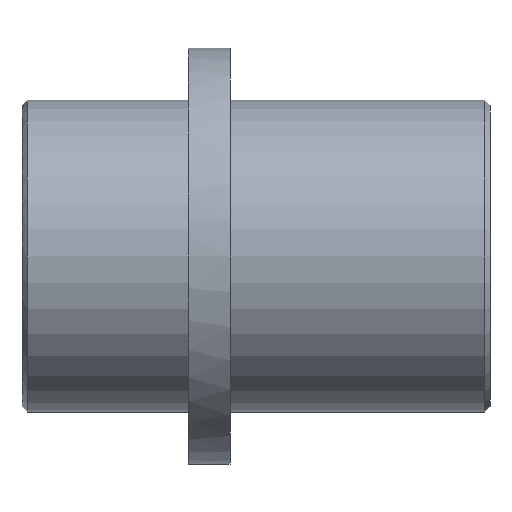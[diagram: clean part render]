
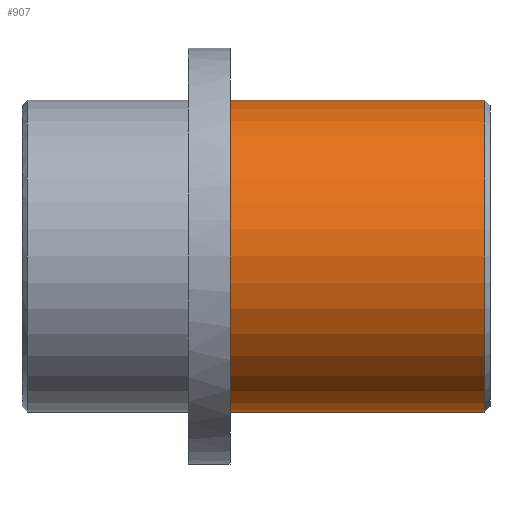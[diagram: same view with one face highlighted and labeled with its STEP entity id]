
A CAD part, front view. The second image highlights one B-rep face of the part: STEP entity #907.
In plain terms, the highlighted cylindrical face has radius 30 mm (diameter 60 mm), a partial arc.
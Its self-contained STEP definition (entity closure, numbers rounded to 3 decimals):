
#773=CARTESIAN_POINT('Vertex',(0.,0.,-30.)) ;
#778=CARTESIAN_POINT('Axis2P3D Location',(0.,0.,0.)) ;
#782=CARTESIAN_POINT('Vertex',(0.,-30.,0.)) ;
#785=CARTESIAN_POINT('Axis2P3D Location',(0.,0.,0.)) ;
#789=CARTESIAN_POINT('Vertex',(0.,0.,30.)) ;
#813=CARTESIAN_POINT('Vertex',(49.,0.,30.)) ;
#820=CARTESIAN_POINT('Vertex',(49.,0.,-30.)) ;
#849=CARTESIAN_POINT('Axis2P3D Location',(49.,0.,0.)) ;
#853=CARTESIAN_POINT('Vertex',(49.,-30.,0.)) ;
#856=CARTESIAN_POINT('Axis2P3D Location',(49.,0.,0.)) ;
#875=CARTESIAN_POINT('Line Origine',(50.,0.,30.)) ;
#880=CARTESIAN_POINT('Line Origine',(50.,0.,-30.)) ;
#894=CARTESIAN_POINT('Axis2P3D Location',(50.,0.,0.)) ;
#779=DIRECTION('Axis2P3D Direction',(1.,0.,-0.)) ;
#786=DIRECTION('Axis2P3D Direction',(1.,0.,-0.)) ;
#850=DIRECTION('Axis2P3D Direction',(-1.,0.,0.)) ;
#857=DIRECTION('Axis2P3D Direction',(-1.,0.,0.)) ;
#876=DIRECTION('Vector Direction',(-1.,0.,0.)) ;
#881=DIRECTION('Vector Direction',(-1.,0.,0.)) ;
#895=DIRECTION('Axis2P3D Direction',(-1.,-0.,-0.)) ;
#896=DIRECTION('Axis2P3D XDirection',(0.,0.,-1.)) ;
#780=AXIS2_PLACEMENT_3D('Circle Axis2P3D',#778,#779,$) ;
#787=AXIS2_PLACEMENT_3D('Circle Axis2P3D',#785,#786,$) ;
#851=AXIS2_PLACEMENT_3D('Circle Axis2P3D',#849,#850,$) ;
#858=AXIS2_PLACEMENT_3D('Circle Axis2P3D',#856,#857,$) ;
#897=AXIS2_PLACEMENT_3D('Cylinder Axis2P3D',#894,#895,#896) ;
#900=ORIENTED_EDGE('',*,*,#884,.T.) ;
#901=ORIENTED_EDGE('',*,*,#860,.F.) ;
#902=ORIENTED_EDGE('',*,*,#855,.F.) ;
#903=ORIENTED_EDGE('',*,*,#879,.T.) ;
#904=ORIENTED_EDGE('',*,*,#791,.T.) ;
#905=ORIENTED_EDGE('',*,*,#784,.T.) ;
#877=VECTOR('Line Direction',#876,1.) ;
#882=VECTOR('Line Direction',#881,1.) ;
#907=ADVANCED_FACE('355-50X90',(#906),#898,.T.) ;
#781=CIRCLE('generated circle',#780,30.) ;
#788=CIRCLE('generated circle',#787,30.) ;
#852=CIRCLE('generated circle',#851,30.) ;
#859=CIRCLE('generated circle',#858,30.) ;
#898=CYLINDRICAL_SURFACE('generated cylinder',#897,30.) ;
#784=EDGE_CURVE('',#783,#774,#781,.T.) ;
#791=EDGE_CURVE('',#790,#783,#788,.T.) ;
#855=EDGE_CURVE('',#814,#854,#852,.F.) ;
#860=EDGE_CURVE('',#854,#821,#859,.F.) ;
#879=EDGE_CURVE('',#814,#790,#878,.T.) ;
#884=EDGE_CURVE('',#774,#821,#883,.F.) ;
#899=EDGE_LOOP('',(#900,#901,#902,#903,#904,#905)) ;
#906=FACE_OUTER_BOUND('',#899,.T.) ;
#878=LINE('Line',#875,#877) ;
#883=LINE('Line',#880,#882) ;
#774=VERTEX_POINT('',#773) ;
#783=VERTEX_POINT('',#782) ;
#790=VERTEX_POINT('',#789) ;
#814=VERTEX_POINT('',#813) ;
#821=VERTEX_POINT('',#820) ;
#854=VERTEX_POINT('',#853) ;
